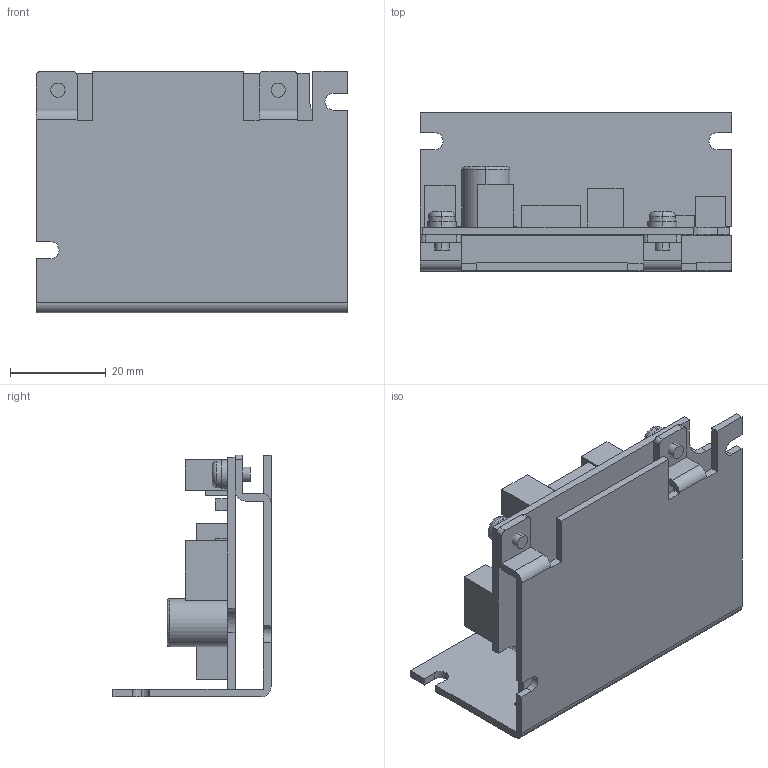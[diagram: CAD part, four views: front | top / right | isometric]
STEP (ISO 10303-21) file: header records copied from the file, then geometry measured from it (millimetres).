
FILE_DESCRIPTION (( 'STEP AP203' ), '1' );
FILE_NAME ('PDSB-BA_3D.STEP', '2019-01-25T01:59:03', ( 'setup' ), ( 'Microsoft' ), 'SwSTEP 2.0', 'SolidWorks 2014', '' );
FILE_SCHEMA (( 'CONFIG_CONTROL_DESIGN' ));
Length unit declared in the file: millimetre
Products named in the file (1): PDSB-BA_3D
Bounding box: 65 x 33 x 50.5 mm (x, y, z)
Volume: 17108.5 mm3; surface area: 19205.1 mm2
Topology: 3 solids, 5 shells, 154 faces, 403 edges, 264 vertices
Faces by surface type: plane 108, cylinder 40, torus 6
Entity records: 4797 total; most frequent: CARTESIAN_POINT 822, DIRECTION 810, ORIENTED_EDGE 806, EDGE_CURVE 403, VECTOR 306, LINE 306, VERTEX_POINT 264, AXIS2_PLACEMENT_3D 252
